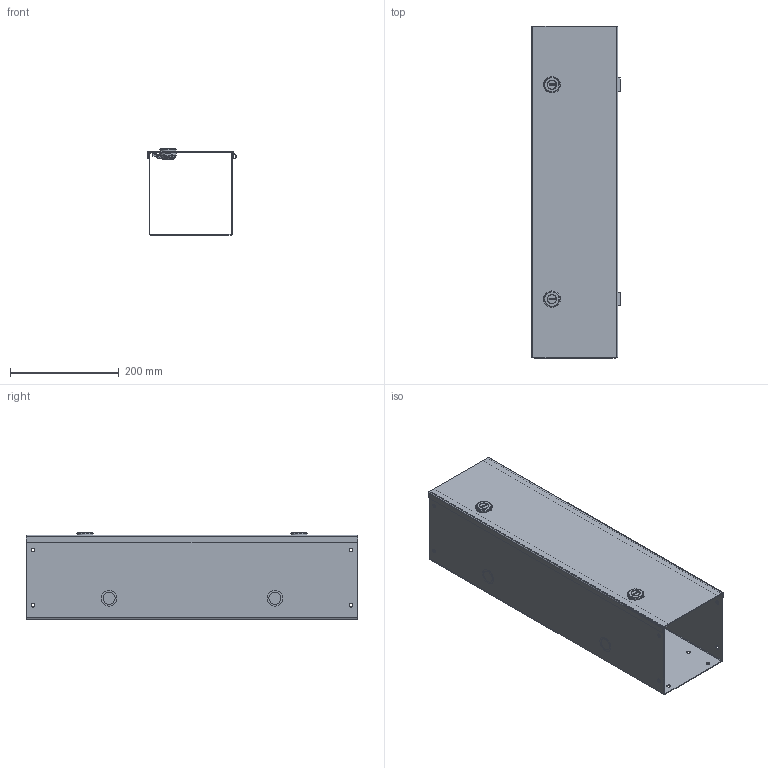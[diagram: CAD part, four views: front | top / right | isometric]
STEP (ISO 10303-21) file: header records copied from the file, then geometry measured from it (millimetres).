
FILE_DESCRIPTION(/* description */ ('1100SS 24" x 6" x 6" Assembly'),/* implementation_level */ '2;1');
FILE_NAME(/* name */ '1100SS6024.stp',/* time_stamp */ '2024-10-09T11:52:39-04:00',/* author */ ('BoxCad'),/* organization */ (''),/* preprocessor_version */ 'ST-DEVELOPER v20',/* originating_system */ 'Autodesk Inventor 2024',/* authorisation */ '');
FILE_SCHEMA (('AUTOMOTIVE_DESIGN { 1 0 10303 214 3 1 1 }'));
Products named in the file (11): 1100SS6024; 1100SS6024B; 1100SS6024B-P; 1100SS6024C; 1100SS6024C-P; STK-P-02400S; STK-Q-33361; STK-A-880SCQ1-SL-1; STK-A-880SCQ1-SL-2; STK-Q-78631; STK-Q-78644
Assembly tree (14 placements, depth 4):
  1100SS6024
    1100SS6024B
      1100SS6024B-P
      STK-P-02400S
    1100SS6024C
      1100SS6024C-P
      STK-P-02400S
      STK-Q-33361  x2
      STK-A-880SCQ1-SL-1
        STK-Q-78631
        STK-Q-78644
      STK-A-880SCQ1-SL-2
        STK-Q-78631
        STK-Q-78644
Bounding box: 162.7 x 609.6 x 158.4 mm (x, y, z)
Volume: 572339.6 mm3; surface area: 820678.4 mm2
Topology: 8 solids, 8 shells, 3376 faces, 8614 edges, 5198 vertices
Faces by surface type: plane 1278, cylinder 902, bspline 826, torus 212, sphere 158
Full cylindrical faces by diameter (mm): 0.762 x2, 7.137 x16, 30 x2
Entity records: 60335 total; most frequent: CARTESIAN_POINT 18307, ORIENTED_EDGE 9106, DIRECTION 7922, EDGE_CURVE 4553, VERTEX_POINT 2809, AXIS2_PLACEMENT_3D 2700, LINE 2522, VECTOR 2522
